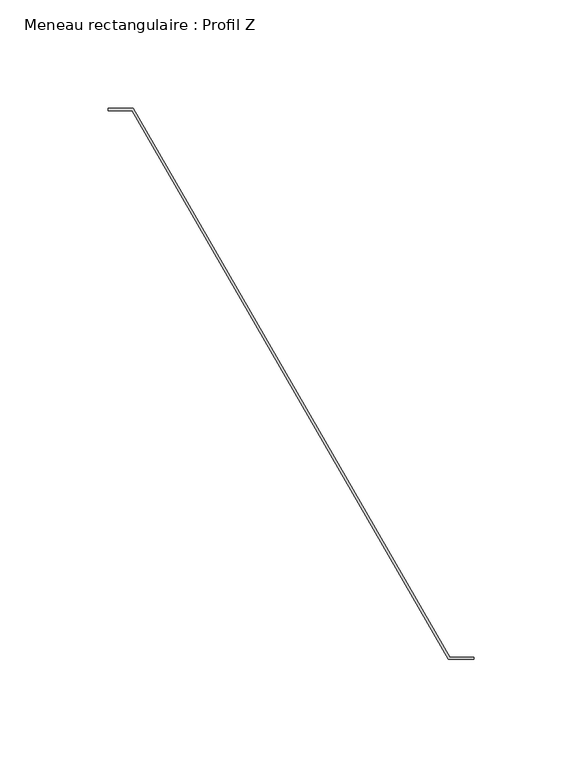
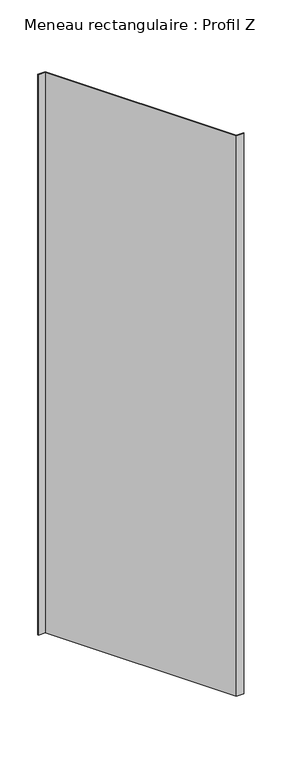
"""IFC4 building model written with IfcOpenShell, lengths in millimetres: member geometry, Meneau rectangulaire : Profil Z."""

from ifc_helpers import new_model, si_unit, frame, origin, place, context, project, spatial, polyline, outline, extrude, source, transform, mapped, element, save


def meneau_rectangulaire_profil_z_7524bb9b(model_context):
    return source(origin(), model_context, "Body", "SweptSolid", [
        extrude(outline(polyline([(72.7461339, -87.0), (-73.3234842, 166.0), (-84.2931393, 166.0), (-84.2931393, 167.0), (-72.7461339, 167.0), (73.3234842, -86.0), (84.2931393, -86.0), (84.2931393, -87.0), (72.7461339, -87.0)])), frame((0.0, 0.0, -906.0), z_axis=(0.0, 0.0, 1.0), x_axis=(1.0, 0.0, 0.0)), (0.0, 0.0, 1.0), 906.0),
    ])


if __name__ == "__main__":
    model = new_model("IFC4")
    model_context = context("Model", 3, world=origin())
    ifc_project = project(units=[si_unit("LENGTHUNIT", "METRE", prefix="MILLI")], contexts=[model_context])
    site = spatial("IfcSite", under=ifc_project)
    building = spatial("IfcBuilding", under=site)
    placement = place(None, origin())
    meneau_rectangulaire_profil_z_shape = meneau_rectangulaire_profil_z_7524bb9b(model_context)
    element("IfcMember", 1, ObjectType="Meneau rectangulaire : Profil Z", at=placement, inside=building, context=model_context, shape_type="MappedRepresentation", body=[
        mapped(meneau_rectangulaire_profil_z_shape, transform((0.0, 0.0, 0.0), x_axis=(1.0, 0.0, 0.0), y_axis=(0.0, 1.0, 0.0), z_axis=(0.0, 0.0, 1.0))),
    ])
    save(model, "model.ifc")
